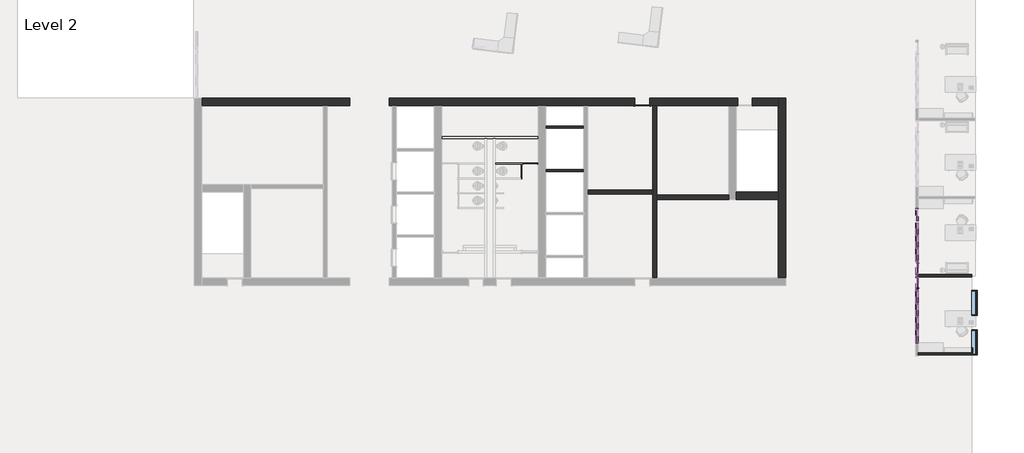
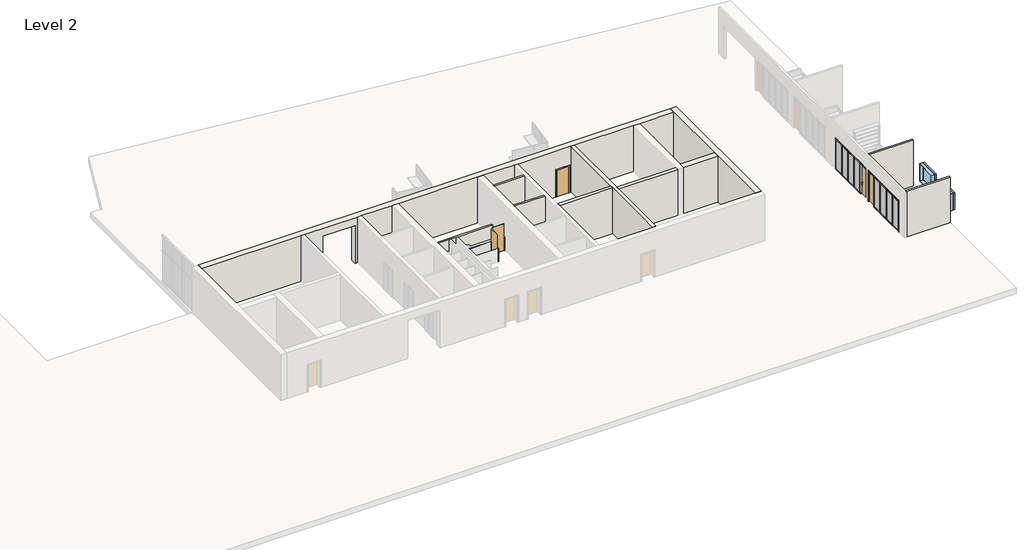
# One storey, part 2 of 7: 49 members, 18 plates, 13 walls, 5 doors, 2 windows.
"""IFC4 building model written with IfcOpenShell, lengths in millimetres."""

from ifc_helpers import new_model, si_unit, frame, origin, place, context, project, spatial, polyline, outline, extrude, faceted_brep, transform, mapped, element, save
from components import curtain_wall_sgl_glass_curtain_wall_sgl_glass_683140d0, curtain_wall_sgl_glass_curtain_wall_sgl_glass_5192a5a3, door_aec9db07, toilet_partitions_2_10_0724d611, door_243abaaa, member_9597caa3, member_b2bde9e6, member_ee409385, member_7ffbafd8, member_47ea2df9, member_5507c937, member_0e55f5ff, member_6d48148e, member_7899ddbe, system_panel_glazed_8093bbd9, system_panel_glazed_f9de1280, system_panel_glazed_6896c6c0, system_panel_glazed_50fd444c, window_7a027cf8

model = new_model("IFC4")

# Units and contexts
model_context = context("Model", 3, world=origin())
ifc_project = project(units=[si_unit("LENGTHUNIT", "METRE", prefix="MILLI")], contexts=[model_context])

# Site, building, storey
site = spatial("IfcSite", under=ifc_project)
building = spatial("IfcBuilding", under=site)
storey = spatial("IfcBuildingStorey", under=building, Name="Level 2", Elevation=3657.6)

# Doors
placement = place(None, origin())
curtain_wall_sgl_glass_curtain_wall_sgl_glass_shape = curtain_wall_sgl_glass_curtain_wall_sgl_glass_683140d0(model_context)
element("IfcDoor", 1, ObjectType="Curtain Wall Sgl Glass : Curtain Wall Sgl Glass", at=placement, inside=storey, context=model_context, shape_type="MappedRepresentation", body=[
    mapped(curtain_wall_sgl_glass_curtain_wall_sgl_glass_shape, transform((11449.2054088, -14715.1428492, 3657.6), x_axis=(0.0, 1.0, 0.0), y_axis=(-1.0, 0.0, 0.0), z_axis=(0.0, 0.0, 1.0))),
])
curtain_wall_sgl_glass_curtain_wall_sgl_glass_2_shape = curtain_wall_sgl_glass_curtain_wall_sgl_glass_5192a5a3(model_context)
element("IfcDoor", 2, ObjectType="Curtain Wall Sgl Glass : Curtain Wall Sgl Glass", at=placement, inside=storey, context=model_context, shape_type="MappedRepresentation", body=[
    mapped(curtain_wall_sgl_glass_curtain_wall_sgl_glass_2_shape, transform((11449.2054088, -13709.3028492, 3657.6), x_axis=(0.0, -1.0, 0.0), y_axis=(1.0, 0.0, 0.0), z_axis=(0.0, 0.0, 1.0))),
])
door_shape = door_aec9db07(model_context)
element("IfcDoor", 3, ObjectType="Single-Flush : 36\" x 84\"", at=placement, inside=storey, context=model_context, shape_type="MappedRepresentation", body=[
    mapped(door_shape, transform((-5525.0427926, -3469.6103492, 3657.6), x_axis=(1.0, 0.0, 0.0), y_axis=(0.0, 1.0, 0.0), z_axis=(0.0, 0.0, 1.0))),
])
toilet_partitions_2_10_shape = toilet_partitions_2_10_0724d611(model_context)
element("IfcDoor", 4, ObjectType="toilet Partitions : 2'10", at=placement, inside=storey, context=model_context, shape_type="MappedRepresentation", body=[
    mapped(toilet_partitions_2_10_shape, transform((-12449.7428559, -7282.7853492, 3657.6), x_axis=(1.0, 0.0, 0.0), y_axis=(0.0, 1.0, 0.0), z_axis=(0.0, 0.0, 1.0))),
])
door_2_shape = door_243abaaa(model_context)
element("IfcDoor", 5, ObjectType="toilet Partitions : 2'5\"", at=placement, inside=storey, context=model_context, shape_type="MappedRepresentation", body=[
    mapped(door_2_shape, transform((-12985.3856498, -7739.9853492, 3657.6), x_axis=(0.0, -1.0, 0.0), y_axis=(1.0, 0.0, 0.0), z_axis=(0.0, 0.0, 1.0))),
])

# Members
member_shape = member_9597caa3(model_context)
element("IfcMember", 6, ObjectType="Rectangular Mullion : 2.5\" x 5\" rectangular", at=placement, inside=storey, context=model_context, shape_type="MappedRepresentation", body=[
    mapped(member_shape, transform((11449.2054088, -13307.9828492, 3721.1), x_axis=(0.0, 1.0, 0.0), y_axis=(1.0, 0.0, 0.0), z_axis=(0.0, 0.0, -1.0))),
])
element("IfcMember", 7, ObjectType="Rectangular Mullion : 2.5\" x 5\" rectangular", at=placement, inside=storey, context=model_context, shape_type="MappedRepresentation", body=[
    mapped(member_shape, transform((11449.2054088, -12505.3428492, 3721.1), x_axis=(0.0, 1.0, 0.0), y_axis=(1.0, 0.0, 0.0), z_axis=(0.0, 0.0, -1.0))),
])
element("IfcMember", 8, ObjectType="Rectangular Mullion : 2.5\" x 5\" rectangular", at=placement, inside=storey, context=model_context, shape_type="MappedRepresentation", body=[
    mapped(member_shape, transform((11449.2054088, -11702.7028492, 3721.1), x_axis=(0.0, 1.0, 0.0), y_axis=(1.0, 0.0, 0.0), z_axis=(0.0, 0.0, -1.0))),
])
member_2_shape = member_b2bde9e6(model_context)
element("IfcMember", 9, ObjectType="Rectangular Mullion : 2.5\" x 5\" rectangular", at=placement, inside=storey, context=model_context, shape_type="MappedRepresentation", body=[
    mapped(member_2_shape, transform((11449.2054088, -10065.6728492, 3721.1), x_axis=(0.0, 1.0, 0.0), y_axis=(1.0, 0.0, 0.0), z_axis=(0.0, 0.0, -1.0))),
])
element("IfcMember", 10, ObjectType="Rectangular Mullion : 2.5\" x 5\" rectangular", at=placement, inside=storey, context=model_context, shape_type="MappedRepresentation", body=[
    mapped(member_shape, transform((11449.2054088, -15116.4628492, 3721.1), x_axis=(0.0, -1.0, 0.0), y_axis=(-1.0, 0.0, 0.0), z_axis=(0.0, 0.0, -1.0))),
])
element("IfcMember", 11, ObjectType="Rectangular Mullion : 2.5\" x 5\" rectangular", at=placement, inside=storey, context=model_context, shape_type="MappedRepresentation", body=[
    mapped(member_shape, transform((11449.2054088, -15919.1028492, 3721.1), x_axis=(0.0, -1.0, 0.0), y_axis=(-1.0, 0.0, 0.0), z_axis=(0.0, 0.0, -1.0))),
])
element("IfcMember", 12, ObjectType="Rectangular Mullion : 2.5\" x 5\" rectangular", at=placement, inside=storey, context=model_context, shape_type="MappedRepresentation", body=[
    mapped(member_shape, transform((11449.2054088, -16721.7428492, 3721.1), x_axis=(0.0, -1.0, 0.0), y_axis=(-1.0, 0.0, 0.0), z_axis=(0.0, 0.0, -1.0))),
])
element("IfcMember", 13, ObjectType="Rectangular Mullion : 2.5\" x 5\" rectangular", at=placement, inside=storey, context=model_context, shape_type="MappedRepresentation", body=[
    mapped(member_shape, transform((11449.2054088, -17524.3828492, 3721.1), x_axis=(0.0, -1.0, 0.0), y_axis=(-1.0, 0.0, 0.0), z_axis=(0.0, 0.0, -1.0))),
])
element("IfcMember", 14, ObjectType="Rectangular Mullion : 2.5\" x 5\" rectangular", at=placement, inside=storey, context=model_context, shape_type="MappedRepresentation", body=[
    mapped(member_2_shape, transform((11449.2054088, -18358.7728492, 3721.1), x_axis=(0.0, -1.0, 0.0), y_axis=(-1.0, 0.0, 0.0), z_axis=(0.0, 0.0, -1.0))),
])
member_3_shape = member_ee409385(model_context)
element("IfcMember", 15, ObjectType="Rectangular Mullion : 2.5\" x 5\" rectangular", at=placement, inside=storey, context=model_context, shape_type="MappedRepresentation", body=[
    mapped(member_3_shape, transform((11449.2054088, -14142.3728492, 6096.0), x_axis=(0.0, -1.0, 0.0), y_axis=(1.0, 0.0, 0.0), z_axis=(0.0, 0.0, 1.0))),
])
member_4_shape = member_7ffbafd8(model_context)
element("IfcMember", 16, ObjectType="Rectangular Mullion : 2.5\" x 5\" rectangular", at=placement, inside=storey, context=model_context, shape_type="MappedRepresentation", body=[
    mapped(member_4_shape, transform((11449.2054088, -18358.7728492, 6197.6), x_axis=(0.0, 0.0, 1.0), y_axis=(-1.0, 0.0, 0.0), z_axis=(0.0, -1.0, 0.0))),
])
element("IfcMember", 17, ObjectType="Rectangular Mullion : 2.5\" x 5\" rectangular", at=placement, inside=storey, context=model_context, shape_type="MappedRepresentation", body=[
    mapped(member_4_shape, transform((11449.2054088, -15116.4628492, 6197.6), x_axis=(0.0, 0.0, 1.0), y_axis=(-1.0, 0.0, 0.0), z_axis=(0.0, -1.0, 0.0))),
])
element("IfcMember", 18, ObjectType="Rectangular Mullion : 2.5\" x 5\" rectangular", at=placement, inside=storey, context=model_context, shape_type="MappedRepresentation", body=[
    mapped(member_4_shape, transform((11449.2054088, -15084.7128492, 3657.6), x_axis=(0.0, 0.0, -1.0), y_axis=(-1.0, 0.0, 0.0), z_axis=(0.0, 1.0, 0.0))),
])
member_5_shape = member_47ea2df9(model_context)
element("IfcMember", 19, ObjectType="Rectangular Mullion : 2.5\" x 5\" rectangular", at=placement, inside=storey, context=model_context, shape_type="MappedRepresentation", body=[
    mapped(member_5_shape, transform((11449.2054088, -15919.1028492, 6096.0), x_axis=(0.0, 0.0, 1.0), y_axis=(-1.0, 0.0, 0.0), z_axis=(0.0, -1.0, 0.0))),
])
element("IfcMember", 20, ObjectType="Rectangular Mullion : 2.5\" x 5\" rectangular", at=placement, inside=storey, context=model_context, shape_type="MappedRepresentation", body=[
    mapped(member_5_shape, transform((11449.2054088, -16721.7428492, 6096.0), x_axis=(0.0, 0.0, 1.0), y_axis=(-1.0, 0.0, 0.0), z_axis=(0.0, -1.0, 0.0))),
])
element("IfcMember", 21, ObjectType="Rectangular Mullion : 2.5\" x 5\" rectangular", at=placement, inside=storey, context=model_context, shape_type="MappedRepresentation", body=[
    mapped(member_5_shape, transform((11449.2054088, -17524.3828492, 6096.0), x_axis=(0.0, 0.0, 1.0), y_axis=(-1.0, 0.0, 0.0), z_axis=(0.0, -1.0, 0.0))),
])
member_6_shape = member_5507c937(model_context)
element("IfcMember", 22, ObjectType="Rectangular Mullion : 2.5\" x 5\" rectangular", at=placement, inside=storey, context=model_context, shape_type="MappedRepresentation", body=[
    mapped(member_6_shape, transform((11449.2054088, -15919.1028492, 6197.6), x_axis=(0.0, 0.0, 1.0), y_axis=(-1.0, 0.0, 0.0), z_axis=(0.0, -1.0, 0.0))),
])
element("IfcMember", 23, ObjectType="Rectangular Mullion : 2.5\" x 5\" rectangular", at=placement, inside=storey, context=model_context, shape_type="MappedRepresentation", body=[
    mapped(member_6_shape, transform((11449.2054088, -16721.7428492, 6197.6), x_axis=(0.0, 0.0, 1.0), y_axis=(-1.0, 0.0, 0.0), z_axis=(0.0, -1.0, 0.0))),
])
element("IfcMember", 24, ObjectType="Rectangular Mullion : 2.5\" x 5\" rectangular", at=placement, inside=storey, context=model_context, shape_type="MappedRepresentation", body=[
    mapped(member_6_shape, transform((11449.2054088, -17524.3828492, 6197.6), x_axis=(0.0, 0.0, 1.0), y_axis=(-1.0, 0.0, 0.0), z_axis=(0.0, -1.0, 0.0))),
])
element("IfcMember", 25, ObjectType="Rectangular Mullion : 2.5\" x 5\" rectangular", at=placement, inside=storey, context=model_context, shape_type="MappedRepresentation", body=[
    mapped(member_6_shape, transform((11449.2054088, -15919.1028492, 3657.6), x_axis=(0.0, 0.0, -1.0), y_axis=(-1.0, 0.0, 0.0), z_axis=(0.0, 1.0, 0.0))),
])
element("IfcMember", 26, ObjectType="Rectangular Mullion : 2.5\" x 5\" rectangular", at=placement, inside=storey, context=model_context, shape_type="MappedRepresentation", body=[
    mapped(member_6_shape, transform((11449.2054088, -16721.7428492, 3657.6), x_axis=(0.0, 0.0, -1.0), y_axis=(-1.0, 0.0, 0.0), z_axis=(0.0, 1.0, 0.0))),
])
element("IfcMember", 27, ObjectType="Rectangular Mullion : 2.5\" x 5\" rectangular", at=placement, inside=storey, context=model_context, shape_type="MappedRepresentation", body=[
    mapped(member_4_shape, transform((11449.2054088, -17524.3828492, 3657.6), x_axis=(0.0, 0.0, -1.0), y_axis=(-1.0, 0.0, 0.0), z_axis=(0.0, 1.0, 0.0))),
])
member_7_shape = member_0e55f5ff(model_context)
element("IfcMember", 28, ObjectType="Rectangular Mullion : 2.5\" x 5\" rectangular", at=placement, inside=storey, context=model_context, shape_type="MappedRepresentation", body=[
    mapped(member_7_shape, transform((11449.2054088, -18295.2728492, 6096.0), x_axis=(0.0, 0.0, 1.0), y_axis=(-1.0, 0.0, 0.0), z_axis=(0.0, -1.0, 0.0))),
])
element("IfcMember", 29, ObjectType="Rectangular Mullion : 2.5\" x 5\" rectangular", at=placement, inside=storey, context=model_context, shape_type="MappedRepresentation", body=[
    mapped(member_7_shape, transform((11449.2054088, -15116.4628492, 6096.0), x_axis=(0.0, 0.0, 1.0), y_axis=(-1.0, 0.0, 0.0), z_axis=(0.0, -1.0, 0.0))),
])
element("IfcMember", 30, ObjectType="Rectangular Mullion : 2.5\" x 5\" rectangular", at=placement, inside=storey, context=model_context, shape_type="MappedRepresentation", body=[
    mapped(member_3_shape, transform((11449.2054088, -14282.0728492, 6096.0), x_axis=(0.0, 1.0, 0.0), y_axis=(-1.0, 0.0, 0.0), z_axis=(0.0, 0.0, 1.0))),
])
element("IfcMember", 31, ObjectType="Rectangular Mullion : 2.5\" x 5\" rectangular", at=placement, inside=storey, context=model_context, shape_type="MappedRepresentation", body=[
    mapped(member_4_shape, transform((11449.2054088, -10065.6728492, 6197.6), x_axis=(0.0, 0.0, 1.0), y_axis=(1.0, 0.0, 0.0), z_axis=(0.0, 1.0, 0.0))),
])
element("IfcMember", 32, ObjectType="Rectangular Mullion : 2.5\" x 5\" rectangular", at=placement, inside=storey, context=model_context, shape_type="MappedRepresentation", body=[
    mapped(member_4_shape, transform((11449.2054088, -13307.9828492, 6197.6), x_axis=(0.0, 0.0, 1.0), y_axis=(1.0, 0.0, 0.0), z_axis=(0.0, 1.0, 0.0))),
])
element("IfcMember", 33, ObjectType="Rectangular Mullion : 2.5\" x 5\" rectangular", at=placement, inside=storey, context=model_context, shape_type="MappedRepresentation", body=[
    mapped(member_4_shape, transform((11449.2054088, -13339.7328492, 3657.6), x_axis=(0.0, 0.0, -1.0), y_axis=(1.0, 0.0, 0.0), z_axis=(0.0, -1.0, 0.0))),
])
element("IfcMember", 34, ObjectType="Rectangular Mullion : 2.5\" x 5\" rectangular", at=placement, inside=storey, context=model_context, shape_type="MappedRepresentation", body=[
    mapped(member_5_shape, transform((11449.2054088, -12505.3428492, 6096.0), x_axis=(0.0, 0.0, 1.0), y_axis=(1.0, 0.0, 0.0), z_axis=(0.0, 1.0, 0.0))),
])
element("IfcMember", 35, ObjectType="Rectangular Mullion : 2.5\" x 5\" rectangular", at=placement, inside=storey, context=model_context, shape_type="MappedRepresentation", body=[
    mapped(member_5_shape, transform((11449.2054088, -11702.7028492, 6096.0), x_axis=(0.0, 0.0, 1.0), y_axis=(1.0, 0.0, 0.0), z_axis=(0.0, 1.0, 0.0))),
])
element("IfcMember", 36, ObjectType="Rectangular Mullion : 2.5\" x 5\" rectangular", at=placement, inside=storey, context=model_context, shape_type="MappedRepresentation", body=[
    mapped(member_5_shape, transform((11449.2054088, -10900.0628492, 6096.0), x_axis=(0.0, 0.0, 1.0), y_axis=(1.0, 0.0, 0.0), z_axis=(0.0, 1.0, 0.0))),
])
element("IfcMember", 37, ObjectType="Rectangular Mullion : 2.5\" x 5\" rectangular", at=placement, inside=storey, context=model_context, shape_type="MappedRepresentation", body=[
    mapped(member_6_shape, transform((11449.2054088, -12505.3428492, 6197.6), x_axis=(0.0, 0.0, 1.0), y_axis=(1.0, 0.0, 0.0), z_axis=(0.0, 1.0, 0.0))),
])
element("IfcMember", 38, ObjectType="Rectangular Mullion : 2.5\" x 5\" rectangular", at=placement, inside=storey, context=model_context, shape_type="MappedRepresentation", body=[
    mapped(member_6_shape, transform((11449.2054088, -11702.7028492, 6197.6), x_axis=(0.0, 0.0, 1.0), y_axis=(1.0, 0.0, 0.0), z_axis=(0.0, 1.0, 0.0))),
])
element("IfcMember", 39, ObjectType="Rectangular Mullion : 2.5\" x 5\" rectangular", at=placement, inside=storey, context=model_context, shape_type="MappedRepresentation", body=[
    mapped(member_6_shape, transform((11449.2054088, -10900.0628492, 6197.6), x_axis=(0.0, 0.0, 1.0), y_axis=(1.0, 0.0, 0.0), z_axis=(0.0, 1.0, 0.0))),
])
element("IfcMember", 40, ObjectType="Rectangular Mullion : 2.5\" x 5\" rectangular", at=placement, inside=storey, context=model_context, shape_type="MappedRepresentation", body=[
    mapped(member_6_shape, transform((11449.2054088, -12505.3428492, 3657.6), x_axis=(0.0, 0.0, -1.0), y_axis=(1.0, 0.0, 0.0), z_axis=(0.0, -1.0, 0.0))),
])
element("IfcMember", 41, ObjectType="Rectangular Mullion : 2.5\" x 5\" rectangular", at=placement, inside=storey, context=model_context, shape_type="MappedRepresentation", body=[
    mapped(member_6_shape, transform((11449.2054088, -11702.7028492, 3657.6), x_axis=(0.0, 0.0, -1.0), y_axis=(1.0, 0.0, 0.0), z_axis=(0.0, -1.0, 0.0))),
])
element("IfcMember", 42, ObjectType="Rectangular Mullion : 2.5\" x 5\" rectangular", at=placement, inside=storey, context=model_context, shape_type="MappedRepresentation", body=[
    mapped(member_4_shape, transform((11449.2054088, -10900.0628492, 3657.6), x_axis=(0.0, 0.0, -1.0), y_axis=(1.0, 0.0, 0.0), z_axis=(0.0, -1.0, 0.0))),
])
element("IfcMember", 43, ObjectType="Rectangular Mullion : 2.5\" x 5\" rectangular", at=placement, inside=storey, context=model_context, shape_type="MappedRepresentation", body=[
    mapped(member_7_shape, transform((11449.2054088, -13307.9828492, 6096.0), x_axis=(0.0, 0.0, 1.0), y_axis=(1.0, 0.0, 0.0), z_axis=(0.0, 1.0, 0.0))),
])
member_8_shape = member_6d48148e(model_context)
element("IfcMember", 44, ObjectType="Rectangular Mullion : 2.5\" x 5\" rectangular", at=placement, inside=storey, context=model_context, shape_type="MappedRepresentation", body=[
    mapped(member_8_shape, transform((11449.2054088, -13307.9828492, 6127.75), x_axis=(0.0, 1.0, 0.0), y_axis=(1.0, 0.0, 0.0), z_axis=(0.0, 0.0, -1.0))),
])
element("IfcMember", 45, ObjectType="Rectangular Mullion : 2.5\" x 5\" rectangular", at=placement, inside=storey, context=model_context, shape_type="MappedRepresentation", body=[
    mapped(member_8_shape, transform((11449.2054088, -12505.3428492, 6127.75), x_axis=(0.0, 1.0, 0.0), y_axis=(1.0, 0.0, 0.0), z_axis=(0.0, 0.0, -1.0))),
])
element("IfcMember", 46, ObjectType="Rectangular Mullion : 2.5\" x 5\" rectangular", at=placement, inside=storey, context=model_context, shape_type="MappedRepresentation", body=[
    mapped(member_8_shape, transform((11449.2054088, -11702.7028492, 6127.75), x_axis=(0.0, 1.0, 0.0), y_axis=(1.0, 0.0, 0.0), z_axis=(0.0, 0.0, -1.0))),
])
member_9_shape = member_7899ddbe(model_context)
element("IfcMember", 47, ObjectType="Rectangular Mullion : 2.5\" x 5\" rectangular", at=placement, inside=storey, context=model_context, shape_type="MappedRepresentation", body=[
    mapped(member_9_shape, transform((11449.2054088, -10065.6728492, 6096.0), x_axis=(0.0, 1.0, 0.0), y_axis=(1.0, 0.0, 0.0), z_axis=(0.0, 0.0, -1.0))),
])
element("IfcMember", 48, ObjectType="Rectangular Mullion : 2.5\" x 5\" rectangular", at=placement, inside=storey, context=model_context, shape_type="MappedRepresentation", body=[
    mapped(member_9_shape, transform((11449.2054088, -14142.3728492, 6134.1), x_axis=(0.0, -1.0, 0.0), y_axis=(1.0, 0.0, 0.0), z_axis=(0.0, 0.0, 1.0))),
])
element("IfcMember", 49, ObjectType="Rectangular Mullion : 2.5\" x 5\" rectangular", at=placement, inside=storey, context=model_context, shape_type="MappedRepresentation", body=[
    mapped(member_8_shape, transform((11449.2054088, -15116.4628492, 6127.75), x_axis=(0.0, -1.0, 0.0), y_axis=(-1.0, 0.0, 0.0), z_axis=(0.0, 0.0, -1.0))),
])
element("IfcMember", 50, ObjectType="Rectangular Mullion : 2.5\" x 5\" rectangular", at=placement, inside=storey, context=model_context, shape_type="MappedRepresentation", body=[
    mapped(member_8_shape, transform((11449.2054088, -15919.1028492, 6127.75), x_axis=(0.0, -1.0, 0.0), y_axis=(-1.0, 0.0, 0.0), z_axis=(0.0, 0.0, -1.0))),
])
element("IfcMember", 51, ObjectType="Rectangular Mullion : 2.5\" x 5\" rectangular", at=placement, inside=storey, context=model_context, shape_type="MappedRepresentation", body=[
    mapped(member_8_shape, transform((11449.2054088, -16721.7428492, 6127.75), x_axis=(0.0, -1.0, 0.0), y_axis=(-1.0, 0.0, 0.0), z_axis=(0.0, 0.0, -1.0))),
])
element("IfcMember", 52, ObjectType="Rectangular Mullion : 2.5\" x 5\" rectangular", at=placement, inside=storey, context=model_context, shape_type="MappedRepresentation", body=[
    mapped(member_8_shape, transform((11449.2054088, -17524.3828492, 6127.75), x_axis=(0.0, -1.0, 0.0), y_axis=(-1.0, 0.0, 0.0), z_axis=(0.0, 0.0, -1.0))),
])
element("IfcMember", 53, ObjectType="Rectangular Mullion : 2.5\" x 5\" rectangular", at=placement, inside=storey, context=model_context, shape_type="MappedRepresentation", body=[
    mapped(member_9_shape, transform((11449.2054088, -18358.7728492, 6096.0), x_axis=(0.0, -1.0, 0.0), y_axis=(-1.0, 0.0, 0.0), z_axis=(0.0, 0.0, -1.0))),
])
element("IfcMember", 54, ObjectType="Rectangular Mullion : 2.5\" x 5\" rectangular", at=placement, inside=storey, context=model_context, shape_type="MappedRepresentation", body=[
    mapped(member_9_shape, transform((11449.2054088, -14282.0728492, 6134.1), x_axis=(0.0, 1.0, 0.0), y_axis=(-1.0, 0.0, 0.0), z_axis=(0.0, 0.0, 1.0))),
])

# Plates
system_panel_glazed_shape = system_panel_glazed_8093bbd9(model_context)
element("IfcPlate", 55, ObjectType="System Panel : Glazed", at=placement, inside=storey, context=model_context, shape_type="MappedRepresentation", body=[
    mapped(system_panel_glazed_shape, transform((11449.2054088, -15517.7828492, 3721.1), x_axis=(0.0, -1.0, 0.0), y_axis=(1.0, 0.0, 0.0), z_axis=(0.0, 0.0, 1.0))),
])
element("IfcPlate", 56, ObjectType="System Panel : Glazed", at=placement, inside=storey, context=model_context, shape_type="MappedRepresentation", body=[
    mapped(system_panel_glazed_shape, transform((11449.2054088, -16320.4228492, 3721.1), x_axis=(0.0, -1.0, 0.0), y_axis=(1.0, 0.0, 0.0), z_axis=(0.0, 0.0, 1.0))),
])
element("IfcPlate", 57, ObjectType="System Panel : Glazed", at=placement, inside=storey, context=model_context, shape_type="MappedRepresentation", body=[
    mapped(system_panel_glazed_shape, transform((11449.2054088, -17123.0628492, 3721.1), x_axis=(0.0, -1.0, 0.0), y_axis=(1.0, 0.0, 0.0), z_axis=(0.0, 0.0, 1.0))),
])
element("IfcPlate", 58, ObjectType="System Panel : Glazed", at=placement, inside=storey, context=model_context, shape_type="MappedRepresentation", body=[
    mapped(system_panel_glazed_shape, transform((11449.2054088, -17925.7028492, 3721.1), x_axis=(0.0, -1.0, 0.0), y_axis=(1.0, 0.0, 0.0), z_axis=(0.0, 0.0, 1.0))),
])
system_panel_glazed_2_shape = system_panel_glazed_f9de1280(model_context)
element("IfcPlate", 59, ObjectType="System Panel : Glazed", at=placement, inside=storey, context=model_context, shape_type="MappedRepresentation", body=[
    mapped(system_panel_glazed_2_shape, transform((11449.2054088, -12906.6628492, 3721.1), x_axis=(0.0, 1.0, 0.0), y_axis=(-1.0, 0.0, 0.0), z_axis=(0.0, 0.0, 1.0))),
])
element("IfcPlate", 60, ObjectType="System Panel : Glazed", at=placement, inside=storey, context=model_context, shape_type="MappedRepresentation", body=[
    mapped(system_panel_glazed_2_shape, transform((11449.2054088, -12104.0228492, 3721.1), x_axis=(0.0, 1.0, 0.0), y_axis=(-1.0, 0.0, 0.0), z_axis=(0.0, 0.0, 1.0))),
])
element("IfcPlate", 61, ObjectType="System Panel : Glazed", at=placement, inside=storey, context=model_context, shape_type="MappedRepresentation", body=[
    mapped(system_panel_glazed_2_shape, transform((11449.2054088, -11301.3828492, 3721.1), x_axis=(0.0, 1.0, 0.0), y_axis=(-1.0, 0.0, 0.0), z_axis=(0.0, 0.0, 1.0))),
])
element("IfcPlate", 62, ObjectType="System Panel : Glazed", at=placement, inside=storey, context=model_context, shape_type="MappedRepresentation", body=[
    mapped(system_panel_glazed_2_shape, transform((11449.2054088, -10498.7428492, 3721.1), x_axis=(0.0, 1.0, 0.0), y_axis=(-1.0, 0.0, 0.0), z_axis=(0.0, 0.0, 1.0))),
])
system_panel_glazed_3_shape = system_panel_glazed_6896c6c0(model_context)
element("IfcPlate", 63, ObjectType="System Panel : Glazed", at=placement, inside=storey, context=model_context, shape_type="MappedRepresentation", body=[
    mapped(system_panel_glazed_3_shape, transform((11449.2054088, -13709.3028492, 6127.75), x_axis=(0.0, 1.0, 0.0), y_axis=(-1.0, 0.0, 0.0), z_axis=(0.0, 0.0, 1.0))),
])
element("IfcPlate", 64, ObjectType="System Panel : Glazed", at=placement, inside=storey, context=model_context, shape_type="MappedRepresentation", body=[
    mapped(system_panel_glazed_3_shape, transform((11449.2054088, -12906.6628492, 6127.75), x_axis=(0.0, 1.0, 0.0), y_axis=(-1.0, 0.0, 0.0), z_axis=(0.0, 0.0, 1.0))),
])
element("IfcPlate", 65, ObjectType="System Panel : Glazed", at=placement, inside=storey, context=model_context, shape_type="MappedRepresentation", body=[
    mapped(system_panel_glazed_3_shape, transform((11449.2054088, -12104.0228492, 6127.75), x_axis=(0.0, 1.0, 0.0), y_axis=(-1.0, 0.0, 0.0), z_axis=(0.0, 0.0, 1.0))),
])
element("IfcPlate", 66, ObjectType="System Panel : Glazed", at=placement, inside=storey, context=model_context, shape_type="MappedRepresentation", body=[
    mapped(system_panel_glazed_3_shape, transform((11449.2054088, -11301.3828492, 6127.75), x_axis=(0.0, 1.0, 0.0), y_axis=(-1.0, 0.0, 0.0), z_axis=(0.0, 0.0, 1.0))),
])
element("IfcPlate", 67, ObjectType="System Panel : Glazed", at=placement, inside=storey, context=model_context, shape_type="MappedRepresentation", body=[
    mapped(system_panel_glazed_3_shape, transform((11449.2054088, -10498.7428492, 6127.75), x_axis=(0.0, 1.0, 0.0), y_axis=(-1.0, 0.0, 0.0), z_axis=(0.0, 0.0, 1.0))),
])
system_panel_glazed_4_shape = system_panel_glazed_50fd444c(model_context)
element("IfcPlate", 68, ObjectType="System Panel : Glazed", at=placement, inside=storey, context=model_context, shape_type="MappedRepresentation", body=[
    mapped(system_panel_glazed_4_shape, transform((11449.2054088, -14715.1428492, 6127.75), x_axis=(0.0, -1.0, 0.0), y_axis=(1.0, 0.0, 0.0), z_axis=(0.0, 0.0, 1.0))),
])
element("IfcPlate", 69, ObjectType="System Panel : Glazed", at=placement, inside=storey, context=model_context, shape_type="MappedRepresentation", body=[
    mapped(system_panel_glazed_4_shape, transform((11449.2054088, -15517.7828492, 6127.75), x_axis=(0.0, -1.0, 0.0), y_axis=(1.0, 0.0, 0.0), z_axis=(0.0, 0.0, 1.0))),
])
element("IfcPlate", 70, ObjectType="System Panel : Glazed", at=placement, inside=storey, context=model_context, shape_type="MappedRepresentation", body=[
    mapped(system_panel_glazed_4_shape, transform((11449.2054088, -16320.4228492, 6127.75), x_axis=(0.0, -1.0, 0.0), y_axis=(1.0, 0.0, 0.0), z_axis=(0.0, 0.0, 1.0))),
])
element("IfcPlate", 71, ObjectType="System Panel : Glazed", at=placement, inside=storey, context=model_context, shape_type="MappedRepresentation", body=[
    mapped(system_panel_glazed_4_shape, transform((11449.2054088, -17123.0628492, 6127.75), x_axis=(0.0, -1.0, 0.0), y_axis=(1.0, 0.0, 0.0), z_axis=(0.0, 0.0, 1.0))),
])
element("IfcPlate", 72, ObjectType="System Panel : Glazed", at=placement, inside=storey, context=model_context, shape_type="MappedRepresentation", body=[
    mapped(system_panel_glazed_4_shape, transform((11449.2054088, -17925.7028492, 6127.75), x_axis=(0.0, -1.0, 0.0), y_axis=(1.0, 0.0, 0.0), z_axis=(0.0, 0.0, 1.0))),
])

# Walls
element("IfcWall", 73, ObjectType="Core-shaft 10\" Concrete", at=placement, inside=storey, context=model_context, shape_type="Brep", body=[
    faceted_brep([(-4636.0427926, -14366.2103492, 3657.6), (-4636.0427926, -9489.4103492, 3657.6), (-4636.0427926, -9235.4103492, 3657.6), (-4636.0427926, -3698.2103492, 3657.6), (-4636.0427926, -3698.2103492, 7315.2), (-4636.0427926, -9235.4103492, 7315.2), (-4636.0427926, -9489.4103492, 7315.2), (-4636.0427926, -14366.2103492, 7315.2), (-4890.0427926, -14366.2103492, 3657.6), (-4890.0427926, -14366.2103492, 7315.2), (-4890.0427926, -3698.2103492, 7315.2), (-4890.0427926, -3698.2103492, 3657.6)], [[[0, 1, 2, 3, 4, 5, 6, 7]], [[8, 9, 10, 11]], [[3, 2, 1, 0, 8, 11]], [[7, 6, 5, 4, 10, 9]], [[0, 7, 9, 8]], [[4, 3, 11, 10]]]),
])
element("IfcWall", 74, ObjectType="Core-shaft 10\" Concrete", at=placement, inside=storey, context=model_context, shape_type="SweptSolid", body=[
    extrude(outline(polyline([(-4636.0427926, -9235.4103492), (-172.8999355, -9235.4103492), (-172.8999355, -9489.4103492), (-4636.0427926, -9489.4103492), (-4636.0427926, -9235.4103492)])), frame((0.0, 0.0, 3657.6), z_axis=(0.0, 0.0, 1.0), x_axis=(1.0, 0.0, 0.0)), (0.0, 0.0, 1.0), 3657.6),
])
element("IfcWall", 75, ObjectType="Core-shaft 10\" Concrete", at=placement, inside=storey, context=model_context, shape_type="SweptSolid", body=[
    extrude(outline(polyline([(-8903.2427926, -8905.2103492), (-4890.0427926, -8905.2103492), (-4890.0427926, -9159.2103492), (-8903.2427926, -9159.2103492), (-8903.2427926, -8905.2103492)])), frame((0.0, 0.0, 3657.6), z_axis=(0.0, 0.0, 1.0), x_axis=(1.0, 0.0, 0.0)), (0.0, 0.0, 1.0), 3657.6),
])
element("IfcWall", 76, ObjectType="Core-shaft 18\" Concrete", at=placement, inside=storey, context=model_context, shape_type="Brep", body=[
    faceted_brep([(2867.8429217, -3241.0103492, 3657.6), (2867.8429217, -3698.2103492, 3657.6), (2867.8429217, -9032.2103492, 3657.6), (2867.8429217, -9489.4103492, 3657.6), (2867.8429217, -14366.2103492, 3657.6), (2867.8429217, -14366.2103492, 7315.2), (2867.8429217, -9489.4103492, 7315.2), (2867.8429217, -9032.2103492, 7315.2), (2867.8429217, -3698.2103492, 7315.2), (2867.8429217, -3241.0103492, 7315.2), (3325.0429217, -3241.0103492, 3657.6), (3325.0429217, -3241.0103492, 7315.2), (3325.0429217, -14366.2103492, 7315.2), (3325.0429217, -14366.2103492, 3657.6)], [[[0, 1, 2, 3, 4, 5, 6, 7, 8, 9]], [[10, 11, 12, 13]], [[4, 3, 2, 1, 0, 10, 13]], [[9, 8, 7, 6, 5, 12, 11]], [[5, 4, 13, 12]], [[0, 9, 11, 10]]]),
])
element("IfcWall", 77, ObjectType="Core-shaft 18\" Concrete", at=placement, inside=storey, context=model_context, shape_type="SweptSolid", body=[
    extrude(outline(polyline([(2867.8429217, -9489.4103492), (284.3000645, -9489.4103492), (284.3000645, -9032.2103492), (2867.8429217, -9032.2103492), (2867.8429217, -9489.4103492)])), frame((0.0, 0.0, 3657.6), z_axis=(0.0, 0.0, 1.0), x_axis=(1.0, 0.0, 0.0)), (0.0, 0.0, 1.0), 3657.6),
])
element("IfcWall", 78, ObjectType="Core-shaft 18\" Concrete", at=placement, inside=storey, context=model_context, shape_type="Brep", body=[
    faceted_brep([(-5067.8427926, -3698.2103492, 5791.2), (-5067.8427926, -3698.2103492, 3657.6), (-4890.0427926, -3698.2103492, 3657.6), (-4636.0427926, -3698.2103492, 3657.6), (-172.8999355, -3698.2103492, 3657.6), (284.3000645, -3698.2103492, 3657.6), (360.5000645, -3698.2103492, 3657.6), (360.5000645, -3698.2103492, 5791.2), (1274.9000645, -3698.2103492, 5791.2), (1274.9000645, -3698.2103492, 3657.6), (2867.8429217, -3698.2103492, 3657.6), (2867.8429217, -3698.2103492, 7315.2), (284.3000645, -3698.2103492, 7315.2), (-172.8999355, -3698.2103492, 7315.2), (-4636.0427926, -3698.2103492, 7315.2), (-4890.0427926, -3698.2103492, 7315.2), (-8903.2427926, -3698.2103492, 7315.2), (-9157.2427926, -3698.2103492, 7315.2), (-11497.2428559, -3698.2103492, 7315.2), (-11954.4428559, -3698.2103492, 7315.2), (-17927.9284437, -3698.2103492, 7315.2), (-18385.1284437, -3698.2103492, 7315.2), (-20725.1285069, -3698.2103492, 7315.2), (-20979.1285069, -3698.2103492, 7315.2), (-24992.3285069, -3698.2103492, 7315.2), (-25246.3285069, -3698.2103492, 7315.2), (-32750.2142212, -3698.2103492, 7315.2), (-32750.2142212, -3698.2103492, 3657.6), (-25246.3285069, -3698.2103492, 3657.6), (-24992.3285069, -3698.2103492, 3657.6), (-23606.2142212, -3698.2103492, 3657.6), (-23606.2142212, -3698.2103492, 6705.6), (-21167.8142212, -3698.2103492, 6705.6), (-21167.8142212, -3698.2103492, 3657.6), (-20979.1285069, -3698.2103492, 3657.6), (-20725.1285069, -3698.2103492, 3657.6), (-18385.1284437, -3698.2103492, 3657.6), (-17927.9284437, -3698.2103492, 3657.6), (-11954.4428559, -3698.2103492, 3657.6), (-11497.2428559, -3698.2103492, 3657.6), (-9157.2427926, -3698.2103492, 3657.6), (-8903.2427926, -3698.2103492, 3657.6), (-5982.2427926, -3698.2103492, 3657.6), (-5982.2427926, -3698.2103492, 5791.2), (360.5000645, -3241.0103492, 3657.6), (-5067.8427926, -3241.0103492, 3657.6), (-5067.8427926, -3241.0103492, 5791.2), (-5982.2427926, -3241.0103492, 5791.2), (-5982.2427926, -3241.0103492, 3657.6), (-21167.8142212, -3241.0103492, 3657.6), (-21167.8142212, -3241.0103492, 6705.6), (-23606.2142212, -3241.0103492, 6705.6), (-23606.2142212, -3241.0103492, 3657.6), (-32750.2142212, -3241.0103492, 3657.6), (-32750.2142212, -3241.0103492, 7315.2), (2867.8429217, -3241.0103492, 7315.2), (2867.8429217, -3241.0103492, 3657.6), (1274.9000645, -3241.0103492, 3657.6), (1274.9000645, -3241.0103492, 5791.2), (360.5000645, -3241.0103492, 5791.2)], [[[0, 1, 2, 3, 4, 5, 6, 7, 8, 9, 10, 11, 12, 13, 14, 15, 16, 17, 18, 19, 20, 21, 22, 23, 24, 25, 26, 27, 28, 29, 30, 31, 32, 33, 34, 35, 36, 37, 38, 39, 40, 41, 42, 43]], [[44, 45, 46, 47, 48, 49, 50, 51, 52, 53, 54, 55, 56, 57, 58, 59]], [[57, 56, 10, 9]], [[42, 41, 40, 39, 38, 37, 36, 35, 34, 33, 49, 48]], [[6, 5, 4, 3, 2, 1, 45, 44]], [[27, 53, 52, 30, 29, 28]], [[26, 25, 24, 23, 22, 21, 20, 19, 18, 17, 16, 15, 14, 13, 12, 11, 55, 54]], [[31, 51, 50, 32]], [[51, 31, 30, 52]], [[32, 50, 49, 33]], [[7, 6, 44, 59]], [[8, 7, 59, 58]], [[9, 8, 58, 57]], [[46, 45, 1, 0]], [[47, 46, 0, 43]], [[48, 47, 43, 42]], [[11, 10, 56, 55]], [[27, 26, 54, 53]]]),
])
element("IfcWall", 79, ObjectType="Generic - 5\"", at=placement, inside=storey, context=model_context, shape_type="SweptSolid", body=[
    extrude(outline(polyline([(-11497.2428559, -7635.2103492), (-9157.2427926, -7635.2103492), (-9157.2427926, -7762.2103492), (-11497.2428559, -7762.2103492), (-11497.2428559, -7635.2103492)])), frame((0.0, 0.0, 3657.6), z_axis=(0.0, 0.0, 1.0), x_axis=(1.0, 0.0, 0.0)), (0.0, 0.0, 1.0), 3657.6),
])
element("IfcWall", 80, ObjectType="Generic - 5\"", at=placement, inside=storey, context=model_context, shape_type="SweptSolid", body=[
    extrude(outline(polyline([(-11497.2428559, -4968.2103492), (-9157.2427926, -4968.2103492), (-9157.2427926, -5095.2103492), (-11497.2428559, -5095.2103492), (-11497.2428559, -4968.2103492)])), frame((0.0, 0.0, 3657.6), z_axis=(0.0, 0.0, 1.0), x_axis=(1.0, 0.0, 0.0)), (0.0, 0.0, 1.0), 3657.6),
])
element("IfcWall", 81, ObjectType="Interior - 5 1/2\" Partition (1-hr)", at=placement, inside=storey, context=model_context, shape_type="Brep", body=[
    faceted_brep([(14830.5804088, -14142.3728492, 3657.6), (11519.0554088, -14142.3728492, 3657.6), (11519.0554088, -14142.3728492, 6197.6), (11519.0554088, -14142.3728492, 7315.2), (14830.5804088, -14142.3728492, 7315.2), (14830.5804088, -14282.0728492, 3657.6), (14830.5804088, -14282.0728492, 7315.2), (11519.0554088, -14282.0728492, 7315.2), (11519.0554088, -14282.0728492, 6197.6), (11519.0554088, -14282.0728492, 3657.6), (14830.5804088, -14218.4266737, 3657.6)], [[[0, 1, 2, 3, 4]], [[5, 6, 7, 8, 9]], [[1, 0, 10, 5, 9]], [[4, 3, 7, 6]], [[3, 2, 1, 9, 8, 7]], [[0, 4, 6, 5, 10]]]),
])
element("IfcWall", 82, ObjectType="Interior - 5 1/2\" Partition (1-hr)", at=placement, inside=storey, context=model_context, shape_type="SweptSolid", body=[
    extrude(outline(polyline([(11519.0554088, -18976.8771498), (14830.5804088, -18976.8771498), (14830.5804088, -19116.5771498), (11519.0554088, -19116.5771498), (11519.0554088, -18976.8771498)])), frame((0.0, 0.0, 3657.6), z_axis=(0.0, 0.0, 1.0), x_axis=(1.0, 0.0, 0.0)), (0.0, 0.0, 1.0), 3657.6),
])
element("IfcWall", 83, ObjectType="Interior - Generic - 5\"", at=placement, inside=storey, context=model_context, shape_type="Brep", body=[
    faceted_brep([(-17927.9284437, -5742.9103492, 3657.6), (-15258.6856498, -5742.9103492, 3657.6), (-15131.6856498, -5742.9103492, 3657.6), (-14750.6856498, -5742.9103492, 3657.6), (-14623.6856498, -5742.9103492, 3657.6), (-11954.4428559, -5742.9103492, 3657.6), (-11954.4428559, -5742.9103492, 4724.4), (-14623.6856498, -5742.9103492, 4724.4), (-14750.6856498, -5742.9103492, 4724.4), (-15131.6856498, -5742.9103492, 4724.4), (-15258.6856498, -5742.9103492, 4724.4), (-17927.9284437, -5742.9103492, 4724.4), (-17927.9284437, -5615.9103492, 3657.6), (-17927.9284437, -5615.9103492, 4724.4), (-11954.4428559, -5615.9103492, 4724.4), (-11954.4428559, -5615.9103492, 3657.6)], [[[0, 1, 2, 3, 4, 5, 6, 7, 8, 9, 10, 11]], [[12, 13, 14, 15]], [[5, 4, 3, 2, 1, 0, 12, 15]], [[11, 10, 9, 8, 7, 6, 14, 13]], [[0, 11, 13, 12]], [[6, 5, 15, 14]]]),
])
element("IfcWall", 84, ObjectType="Toilet Partition", at=placement, inside=storey, context=model_context, shape_type="Brep", body=[
    faceted_brep([(-12959.9856498, -7308.1853492, 3657.6), (-12959.9856498, -7308.1853492, 4724.4), (-12959.9856498, -7371.6853492, 4724.4), (-12959.9856498, -7371.6853492, 3657.6), (-13010.7856498, -7308.1853492, 4724.4), (-13010.7856498, -7308.1853492, 3657.6), (-13010.7856498, -7371.6853492, 3657.6), (-13010.7856498, -7371.6853492, 4724.4)], [[[0, 1, 2, 3]], [[4, 5, 6, 7]], [[5, 0, 3, 6]], [[1, 4, 7, 2]], [[1, 0, 5, 4]], [[3, 2, 7, 6]]]),
    faceted_brep([(-12959.9856498, -8222.5853492, 4724.4), (-12959.9856498, -8222.5853492, 3657.6), (-12959.9856498, -8108.2853492, 3657.6), (-12959.9856498, -8108.2853492, 4724.4), (-13010.7856498, -8222.5853492, 3657.6), (-13010.7856498, -8222.5853492, 4724.4), (-13010.7856498, -8171.7853492, 4724.4), (-13010.7856498, -8108.2853492, 4724.4), (-13010.7856498, -8108.2853492, 3657.6), (-13010.7856498, -8171.7853492, 3657.6)], [[[0, 1, 2, 3]], [[4, 5, 6, 7, 8, 9]], [[1, 4, 9, 8, 2]], [[5, 0, 3, 7, 6]], [[3, 2, 8, 7]], [[1, 0, 5, 4]]]),
])
element("IfcWall", 85, ObjectType="Toilet Partition", at=placement, inside=storey, context=model_context, shape_type="Brep", body=[
    faceted_brep([(-11954.4428559, -7308.1853492, 3657.6), (-11954.4428559, -7308.1853492, 4724.4), (-12017.9428559, -7308.1853492, 4724.4), (-12017.9428559, -7308.1853492, 3657.6), (-11954.4428559, -7257.3853492, 4724.4), (-11954.4428559, -7257.3853492, 3657.6), (-12017.9428559, -7257.3853492, 3657.6), (-12017.9428559, -7257.3853492, 4724.4)], [[[0, 1, 2, 3]], [[4, 5, 6, 7]], [[5, 0, 3, 6]], [[1, 4, 7, 2]], [[3, 2, 7, 6]], [[1, 0, 5, 4]]]),
    faceted_brep([(-14623.6856498, -7308.1853492, 4724.4), (-14623.6856498, -7308.1853492, 3657.6), (-13010.7856498, -7308.1853492, 3657.6), (-12959.9856498, -7308.1853492, 3657.6), (-12881.5428559, -7308.1853492, 3657.6), (-12881.5428559, -7308.1853492, 4724.4), (-12959.9856498, -7308.1853492, 4724.4), (-13010.7856498, -7308.1853492, 4724.4), (-14623.6856498, -7257.3853492, 3657.6), (-14623.6856498, -7257.3853492, 4724.4), (-12881.5428559, -7257.3853492, 4724.4), (-12881.5428559, -7257.3853492, 3657.6)], [[[0, 1, 2, 3, 4, 5, 6, 7]], [[8, 9, 10, 11]], [[1, 8, 11, 4, 3, 2]], [[9, 0, 7, 6, 5, 10]], [[5, 4, 11, 10]], [[1, 0, 9, 8]]]),
])

# Windows
window_shape = window_7a027cf8(model_context)
element("IfcWindow", 86, ObjectType="Fixed : 60\" x 54\"", at=placement, inside=storey, context=model_context, shape_type="MappedRepresentation", body=[
    mapped(window_shape, transform((15006.7929088, -15933.0728492, 2743.2), x_axis=(0.0, -1.0, 0.0), y_axis=(1.0, 0.0, 0.0), z_axis=(0.0, 0.0, 1.0))),
])
element("IfcWindow", 87, ObjectType="Fixed : 60\" x 54\"", at=placement, inside=storey, context=model_context, shape_type="MappedRepresentation", body=[
    mapped(window_shape, transform((15006.7929088, -18371.4728492, 2743.2), x_axis=(0.0, -1.0, 0.0), y_axis=(1.0, 0.0, 0.0), z_axis=(0.0, 0.0, 1.0))),
])

save(model, "model.ifc")
